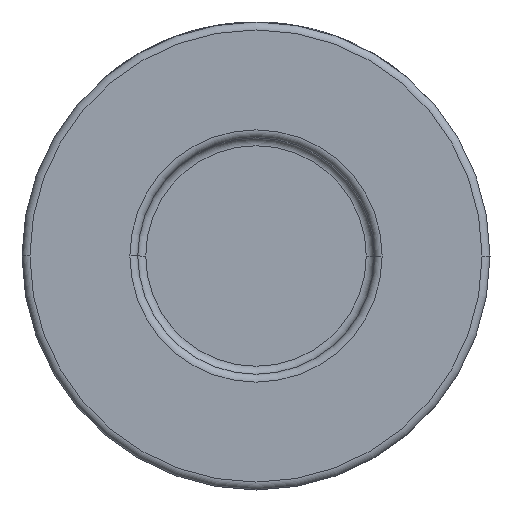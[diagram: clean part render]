
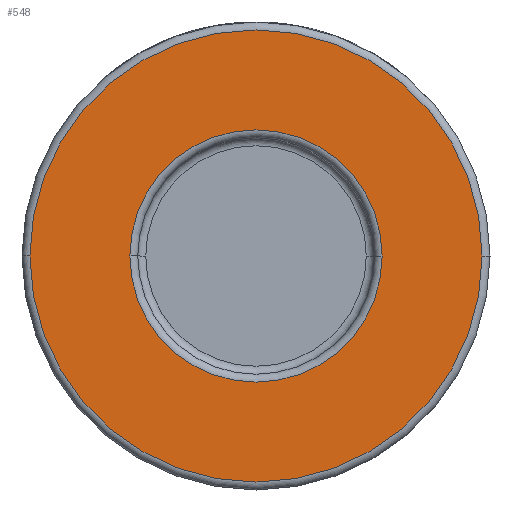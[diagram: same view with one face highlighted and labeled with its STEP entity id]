
A CAD part, front view. The second image highlights one B-rep face of the part: STEP entity #548.
In plain terms, the highlighted planar face has unit normal (0, -1, 0).
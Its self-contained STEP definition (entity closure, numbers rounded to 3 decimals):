
#5 = FACE_BOUND ( 'NONE', #1569, .T. ) ;
#146 = CIRCLE ( 'NONE', #600, 28.5 ) ;
#196 = EDGE_CURVE ( 'NONE', #1047, #4196, #1701, .T. ) ;
#341 = DIRECTION ( 'NONE',  ( 0., -1., 0. ) ) ;
#548 = ADVANCED_FACE ( 'NONE', ( #5, #2796 ), #1011, .T. ) ;
#600 = AXIS2_PLACEMENT_3D ( 'NONE', #2855, #2127, #1090 ) ;
#674 = ORIENTED_EDGE ( 'NONE', *, *, #3300, .T. ) ;
#1011 = PLANE ( 'NONE',  #3199 ) ;
#1047 = VERTEX_POINT ( 'NONE', #3330 ) ;
#1086 = DIRECTION ( 'NONE',  ( 1., 0., 0. ) ) ;
#1090 = DIRECTION ( 'NONE',  ( 1., 0., 0. ) ) ;
#1134 = CARTESIAN_POINT ( 'NONE',  ( 0., -27., 0. ) ) ;
#1145 = EDGE_LOOP ( 'NONE', ( #3272, #4070 ) ) ;
#1165 = VERTEX_POINT ( 'NONE', #3308 ) ;
#1366 = CARTESIAN_POINT ( 'NONE',  ( 29.5, -27., 0. ) ) ;
#1530 = DIRECTION ( 'NONE',  ( 0., -1., 0. ) ) ;
#1567 = CARTESIAN_POINT ( 'NONE',  ( 0., -27., 0. ) ) ;
#1569 = EDGE_LOOP ( 'NONE', ( #674, #2652 ) ) ;
#1701 = CIRCLE ( 'NONE', #3053, 28.5 ) ;
#2025 = AXIS2_PLACEMENT_3D ( 'NONE', #1567, #3002, #4430 ) ;
#2127 = DIRECTION ( 'NONE',  ( 0., -1., 0. ) ) ;
#2266 = CARTESIAN_POINT ( 'NONE',  ( -15.9, -27., 0. ) ) ;
#2287 = DIRECTION ( 'NONE',  ( 0., 1., 0. ) ) ;
#2588 = DIRECTION ( 'NONE',  ( 1., 0., 0. ) ) ;
#2630 = CIRCLE ( 'NONE', #4353, 15.9 ) ;
#2652 = ORIENTED_EDGE ( 'NONE', *, *, #2665, .T. ) ;
#2665 = EDGE_CURVE ( 'NONE', #4221, #1165, #4040, .T. ) ;
#2796 = FACE_OUTER_BOUND ( 'NONE', #1145, .T. ) ;
#2823 = CARTESIAN_POINT ( 'NONE',  ( 28.5, -27., 0. ) ) ;
#2855 = CARTESIAN_POINT ( 'NONE',  ( 0., -27., 0. ) ) ;
#2900 = EDGE_CURVE ( 'NONE', #4196, #1047, #146, .T. ) ;
#3002 = DIRECTION ( 'NONE',  ( 0., 1., 0. ) ) ;
#3053 = AXIS2_PLACEMENT_3D ( 'NONE', #3402, #1530, #3356 ) ;
#3199 = AXIS2_PLACEMENT_3D ( 'NONE', #1366, #341, #1086 ) ;
#3272 = ORIENTED_EDGE ( 'NONE', *, *, #2900, .T. ) ;
#3300 = EDGE_CURVE ( 'NONE', #1165, #4221, #2630, .T. ) ;
#3308 = CARTESIAN_POINT ( 'NONE',  ( 15.9, -27., 0. ) ) ;
#3330 = CARTESIAN_POINT ( 'NONE',  ( -28.5, -27., 0. ) ) ;
#3356 = DIRECTION ( 'NONE',  ( 1., 0., 0. ) ) ;
#3402 = CARTESIAN_POINT ( 'NONE',  ( 0., -27., 0. ) ) ;
#4040 = CIRCLE ( 'NONE', #2025, 15.9 ) ;
#4070 = ORIENTED_EDGE ( 'NONE', *, *, #196, .T. ) ;
#4196 = VERTEX_POINT ( 'NONE', #2823 ) ;
#4221 = VERTEX_POINT ( 'NONE', #2266 ) ;
#4353 = AXIS2_PLACEMENT_3D ( 'NONE', #1134, #2287, #2588 ) ;
#4430 = DIRECTION ( 'NONE',  ( 1., 0., 0. ) ) ;
